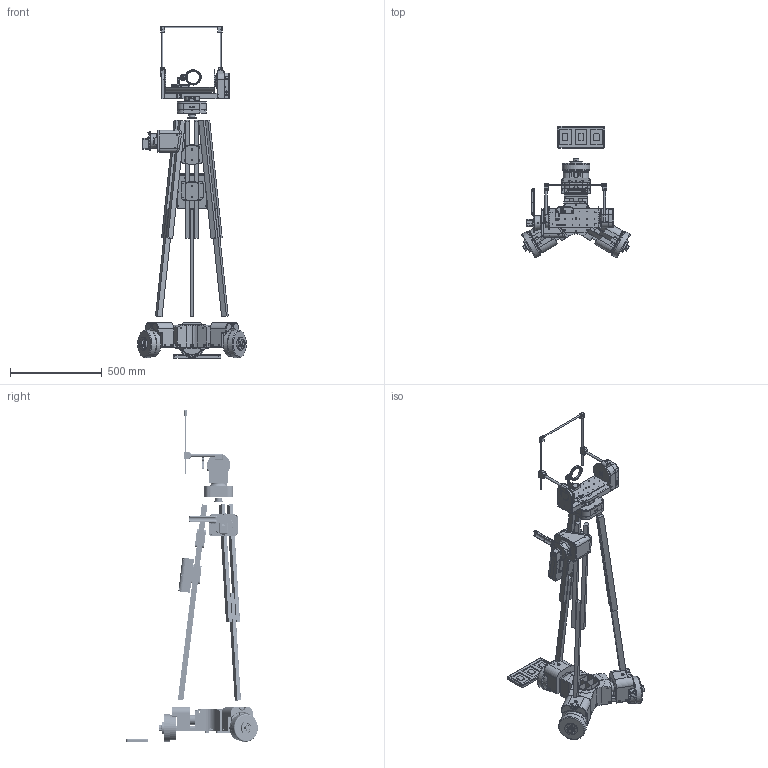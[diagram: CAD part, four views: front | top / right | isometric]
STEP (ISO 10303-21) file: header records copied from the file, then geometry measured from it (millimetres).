
FILE_DESCRIPTION(/* description */ (''),/* implementation_level */ '2;1');
FILE_NAME(/* name */ '55be2531-e565-4f80-ab7e-cd23348c8548.stp',/* time_stamp */ '2022-12-09T12:49:31Z',/* author */ (''),/* organization */ (''),/* preprocessor_version */ 'ST-DEVELOPER v19.2',/* originating_system */ 'Autodesk Translation Framework v11.17.0.187',/* authorisation */ '');
FILE_SCHEMA (('AUTOMOTIVE_DESIGN { 1 0 10303 214 3 1 1 }'));
Products named in the file (12): Camera Bot; Base; oneWheel; PanTIlt v27; base_1; upright; sling; Gears; monitor v6; upright1 (1); upright1 (1) (1); arm
Assembly tree (13 placements, depth 4):
  Camera Bot
    oneWheel  x3
    Base
    PanTIlt v27
      base_1
      upright
      sling
        Gears
    monitor v6
    upright1 (1)
    upright1 (1) (1)
    arm
Bounding box: 593.29 x 719.15 x 1812.5 mm (x, y, z)
Volume: 20107205 mm3; surface area: 3575135.6 mm2
Topology: 104 solids, 105 shells, 4330 faces, 11147 edges, 7306 vertices
Faces by surface type: cylinder 2173, plane 1674, bspline 209, cone 177, torus 97
Full cylindrical faces by diameter (mm): 2 x8, 2.05 x80, 2.5 x4, 2.6 x16, 2.7 x24, 2.8 x138, 3 x4, 3.2 x2, 3.8 x12, 4 x129, 4.1 x3, 4.5 x28, 4.8 x16, 5 x18, 5.5 x2, 6.3 x5, 6.5 x14, 7 x10, 7.2 x6, 8 x36, 8.7 x4, 9 x21, 9.8 x12, 10 x55, 12 x15, 13 x8, 18.2 x2, 20 x9, 20.4 x3, 20.8 x3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
Entity records: 205497 total; most frequent: CARTESIAN_POINT 125533, DIRECTION 16743, ORIENTED_EDGE 16230, EDGE_CURVE 8115, AXIS2_PLACEMENT_3D 6220, VERTEX_POINT 5306, LINE 4303, VECTOR 4303
